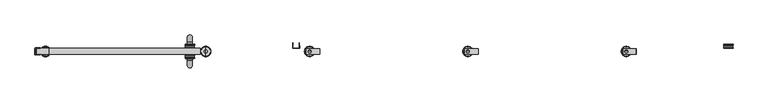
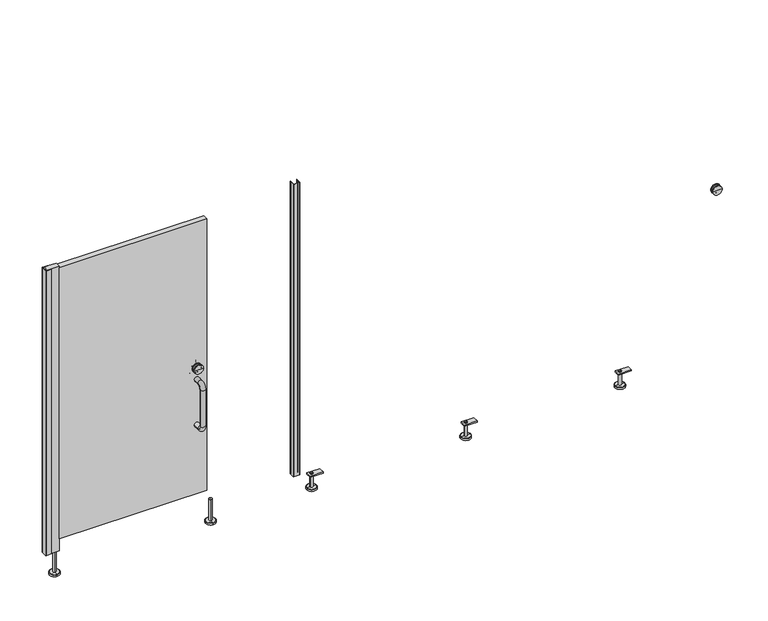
"""IFC4 building model written with IfcOpenShell, lengths in millimetres: proxy geometry, Partition_EuroStyle-Bradley_Corp-ADAStall_3StandardStall-LOFT : Partition_EuroStyle-Bradley_Corp-ADAStall_3StandardStall-LOFT."""

from ifc_helpers import new_model, si_unit, point, frame, frame_2d, origin, place, context, project, spatial, polyline, circle_curve, ellipse_curve, trimmed, segment, composite_curve, outline, extrude, source, transform, mapped, element, save
from ifc_brep_helpers import plane_surface, cylinder_surface, revolved_surface, advanced_brep


def specialty_equipment_f79f568c(model_context):
    return source(origin(), model_context, "Body", "SolidModel", [
        extrude(outline(composite_curve([segment(polyline([(1419.918717, -1491.4999998), (1421.4173026, -1491.4999998)]), True, "CONTINUOUS"), segment(trimmed(circle_curve(frame_2d((1421.4137352, -1492.4990918)), 0.9990984), [point((1421.4173026, -1491.4999998))], [point((1421.8873879, -1493.3787798))], False, "CARTESIAN"), True, "CONTINUOUS"), segment(polyline([(1421.8873879, -1493.3787798), (1421.7662779, -1500.6424298)]), True, "CONTINUOUS"), segment(trimmed(circle_curve(frame_2d((1421.248732, -1501.4999449)), 1.0015917), [point((1421.7662779, -1500.6424298))], [point((1421.7373979, -1502.3742398))], False, "CARTESIAN"), True, "CONTINUOUS"), segment(polyline([(1421.7373979, -1502.3742398), (1421.4433424, -1520.0104531)]), True, "CONTINUOUS"), segment(trimmed(circle_curve(frame_2d((1423.4435342, -1519.9997796)), 2.0002204), [point((1421.4433424, -1520.0104531))], [point((1423.4435342, -1522.0))], True, "CARTESIAN"), True, "CONTINUOUS"), segment(polyline([(1423.4435342, -1522.0), (1457.3278332, -1522.0)]), True, "CONTINUOUS"), segment(trimmed(circle_curve(frame_2d((1457.3768528, -1520.0009061)), 1.9996948), [point((1457.3278332, -1522.0))], [point((1459.3765475, -1520.0))], True, "CARTESIAN"), True, "CONTINUOUS"), segment(polyline([(1459.3765475, -1520.0), (1459.0824961, -1502.3739987)]), True, "CONTINUOUS"), segment(trimmed(circle_curve(frame_2d((1459.5715932, -1501.4999449)), 1.0015917), [point((1459.0824961, -1502.3739987))], [point((1459.0540473, -1500.6424298))], False, "CARTESIAN"), True, "CONTINUOUS"), segment(polyline([(1459.0540473, -1500.6424298), (1458.9329373, -1493.3787798)]), True, "CONTINUOUS"), segment(trimmed(circle_curve(frame_2d((1459.4065899, -1492.4990918)), 0.9990984), [point((1458.9329373, -1493.3787798))], [point((1459.4030225, -1491.4999998))], False, "CARTESIAN"), True, "CONTINUOUS"), segment(polyline([(1459.4030225, -1491.4999998), (1460.9016081, -1491.4999998), (1461.4099473, -1521.97082)]), True, "CONTINUOUS"), segment(trimmed(circle_curve(frame_2d((1459.3807672, -1521.97082)), 2.02918), [point((1461.4099473, -1521.97082))], [point((1459.3807672, -1524.0))], False, "CARTESIAN"), True, "CONTINUOUS"), segment(polyline([(1459.3807672, -1524.0), (1421.4395579, -1524.0)]), True, "CONTINUOUS"), segment(trimmed(circle_curve(frame_2d((1421.4395579, -1521.97082)), 2.02918), [point((1421.4395579, -1524.0))], [point((1419.4103779, -1521.97082))], False, "CARTESIAN"), True, "CONTINUOUS"), segment(polyline([(1419.4103779, -1521.97082), (1419.918717, -1491.4999998)]), True, "CONTINUOUS")], self_intersect=False)), frame((0.0, 0.0, 100.0), z_axis=(0.0, 0.0, 1.0), x_axis=(1.0, 0.0, 0.0)), (0.0, 0.0, 1.0), 1905.0),
        extrude(outline(polyline([(96.0, 1502.8203258), (88.0669888, 1502.8203258), (88.0669888, 1582.6675589), (96.0, 1582.5689968), (96.0, 1502.8203258)])), frame((0.0, -1559.4621549, 0.0), z_axis=(0.0, 1.0, 0.0), x_axis=(0.0, 0.0, 1.0)), (0.0, 0.0, 1.0), 34.925),
        advanced_brep(
        [(1530.4203248, -1541.9996549, 100.0), (1512.4203255, -1541.9996549, 100.0), (1512.4203255, -1541.9996549, 12.0000001), (1530.4203248, -1541.9996549, 12.0000001), (1521.4203251, -1541.9996549, 100.0), (1552.4203241, -1541.9996549, 0.0), (1490.4203262, -1541.9996549, 0.0), (1521.4203251, -1541.9996549, 0.0), (1552.4203241, -1541.9996549, 10.0000001), (1490.4203262, -1541.9996549, 10.0000001), (1550.4179122, -1541.9996549, 12.0000001), (1492.4227381, -1541.9996549, 12.0000001)],
        [
            (0, 1, circle_curve(frame((1521.4203251, -1541.9996549, 100.0), z_axis=(0.0, 0.0, -1.0), x_axis=(-1.0, 0.0, 0.0)), 8.9999997)),
            (1, 2),
            (2, 3, circle_curve(frame((1521.4203251, -1541.9996549, 12.0000001), z_axis=(0.0, 0.0, 1.0), x_axis=(-1.0, 0.0, 0.0)), 8.9999997)),
            (3, 0),
            (1, 0, circle_curve(frame((1521.4203251, -1541.9996549, 100.0), z_axis=(0.0, 0.0, -1.0), x_axis=(-1.0, 0.0, 0.0)), 8.9999997)),
            (3, 2, circle_curve(frame((1521.4203251, -1541.9996549, 12.0000001), z_axis=(0.0, 0.0, 1.0), x_axis=(-1.0, 0.0, 0.0)), 8.9999997)),
            (4, 1),
            (0, 4),
            (5, 6, circle_curve(frame((1521.4203251, -1541.9996549, 0.0), z_axis=(0.0, 0.0, -1.0), x_axis=(-1.0, 0.0, 0.0)), 30.9999989)),
            (6, 7),
            (7, 5),
            (6, 5, circle_curve(frame((1521.4203251, -1541.9996549, 0.0), z_axis=(0.0, 0.0, -1.0), x_axis=(-1.0, 0.0, 0.0)), 30.9999989)),
            (8, 9, circle_curve(frame((1521.4203251, -1541.9996549, 10.0000001), z_axis=(0.0, 0.0, -1.0), x_axis=(-1.0, 0.0, 0.0)), 30.9999989)),
            (9, 6),
            (5, 8),
            (9, 8, circle_curve(frame((1521.4203251, -1541.9996549, 10.0000001), z_axis=(0.0, 0.0, -1.0), x_axis=(-1.0, 0.0, 0.0)), 30.9999989)),
            (10, 11, circle_curve(frame((1521.4203251, -1541.9996549, 12.0000001), z_axis=(0.0, 0.0, -1.0), x_axis=(-1.0, 0.0, 0.0)), 28.997587)),
            (11, 9),
            (8, 10),
            (11, 10, circle_curve(frame((1521.4203251, -1541.9996549, 12.0000001), z_axis=(0.0, 0.0, -1.0), x_axis=(-1.0, 0.0, 0.0)), 28.997587)),
            (2, 11),
            (10, 3),
        ],
        [
            cylinder_surface(frame((1521.4203251, -1541.9996549, 0.0), z_axis=(0.0, 0.0, 1.0), x_axis=(-1.0, 0.0, 0.0)), 8.9999997),
            plane_surface(frame((1521.4203251, -1541.9996549, 100.0), z_axis=(0.0, 0.0, 1.0), x_axis=(-1.0, 0.0, 0.0))),
            plane_surface(frame((1521.4203251, -1541.9996549, 0.0), z_axis=(0.0, 0.0, -1.0), x_axis=(-1.0, 0.0, 0.0))),
            cylinder_surface(frame((1521.4203251, -1541.9996549, 0.0), z_axis=(0.0, 0.0, 1.0), x_axis=(-1.0, 0.0, 0.0)), 30.9999989),
            revolved_surface(polyline([(1490.4203262, -1541.9996549, 10.0000001), (1492.4227381, -1541.9996549, 12.0000001)]), (1521.4203251, -1541.9996549, 0.0), (0.0, 0.0, 1.0)),
            plane_surface(frame((1521.4203251, -1541.9996549, 12.0000001), z_axis=(0.0, 0.0, 1.0), x_axis=(-1.0, 0.0, 0.0))),
        ],
        [
            (0, [[1, 2, 3, 4]]),
            (0, [[5, -4, 6, -2]]),
            (1, [[7, -1, 8]]),
            (1, [[-8, -5, -7]]),
            (2, [[9, 10, 11]]),
            (2, [[12, -11, -10]]),
            (3, [[13, 14, -9, 15]]),
            (3, [[16, -15, -12, -14]]),
            (4, [[17, 18, -13, 19]]),
            (4, [[20, -19, -16, -18]]),
            (5, [[-3, 21, -17, 22]]),
            (5, [[-6, -22, -20, -21]]),
        ],
    ),
        advanced_brep(
        [(787.6001485, -1524.0, 975.0), (817.6001485, -1524.0, 975.0), (787.6001485, -1524.0, 679.0), (817.6001485, -1524.0, 679.0), (817.6001485, -1488.0, 975.0), (787.6001485, -1488.0, 975.0), (817.6001485, -1458.0, 945.0), (817.6001485, -1458.0, 709.0), (787.6001485, -1458.0, 709.0), (787.6001485, -1458.0, 945.0), (817.6001485, -1488.0, 679.0), (787.6001485, -1488.0, 679.0)],
        [
            (0, 1, circle_curve(frame((802.6001485, -1524.0, 975.0), z_axis=(0.0, -1.0, 0.0), x_axis=(1.0, 0.0, 0.0)), 15.0)),
            (1, 0, circle_curve(frame((802.6001485, -1524.0, 975.0), z_axis=(0.0, -1.0, 0.0), x_axis=(1.0, 0.0, 0.0)), 15.0)),
            (2, 3, circle_curve(frame((802.6001485, -1524.0, 679.0), z_axis=(0.0, -1.0, 0.0), x_axis=(1.0, 0.0, 0.0)), 15.0)),
            (3, 2, circle_curve(frame((802.6001485, -1524.0, 679.0), z_axis=(0.0, -1.0, 0.0), x_axis=(1.0, 0.0, 0.0)), 15.0)),
            (1, 4),
            (4, 5, circle_curve(frame((802.6001485, -1488.0, 975.0), z_axis=(0.0, -1.0, 0.0), x_axis=(1.0, 0.0, 0.0)), 15.0)),
            (5, 0),
            (5, 4, circle_curve(frame((802.6001485, -1488.0, 975.0), z_axis=(0.0, -1.0, 0.0), x_axis=(1.0, 0.0, 0.0)), 15.0)),
            (6, 7),
            (7, 8, circle_curve(frame((802.6001485, -1458.0, 709.0), z_axis=(0.0, 0.0, 1.0), x_axis=(1.0, 0.0, 0.0)), 15.0)),
            (8, 9),
            (9, 6, circle_curve(frame((802.6001485, -1458.0, 945.0), z_axis=(0.0, 0.0, -1.0), x_axis=(1.0, 0.0, 0.0)), 15.0)),
            (8, 7, circle_curve(frame((802.6001485, -1458.0, 709.0), z_axis=(0.0, 0.0, 1.0), x_axis=(1.0, 0.0, 0.0)), 15.0)),
            (6, 9, circle_curve(frame((802.6001485, -1458.0, 945.0), z_axis=(0.0, 0.0, -1.0), x_axis=(1.0, 0.0, 0.0)), 15.0)),
            (10, 3),
            (2, 11),
            (11, 10, circle_curve(frame((802.6001485, -1488.0, 679.0), z_axis=(0.0, -1.0, 0.0), x_axis=(1.0, 0.0, 0.0)), 15.0)),
            (10, 11, circle_curve(frame((802.6001485, -1488.0, 679.0), z_axis=(0.0, -1.0, 0.0), x_axis=(1.0, 0.0, 0.0)), 15.0)),
            (9, 5, circle_curve(frame((787.6001485, -1488.0, 945.0), z_axis=(1.0, 0.0, 0.0), x_axis=(0.0, 0.0, 1.0)), 30.0)),
            (4, 6, circle_curve(frame((817.6001485, -1488.0, 945.0), z_axis=(-1.0, 0.0, 0.0), x_axis=(0.0, 0.0, 1.0)), 30.0)),
            (11, 8, circle_curve(frame((787.6001485, -1488.0, 709.0), z_axis=(1.0, 0.0, 0.0), x_axis=(0.0, 1.0, 0.0)), 30.0)),
            (7, 10, circle_curve(frame((817.6001485, -1488.0, 709.0), z_axis=(-1.0, 0.0, 0.0), x_axis=(0.0, 1.0, 0.0)), 30.0)),
        ],
        [
            plane_surface(frame((802.6001485, -1524.0, 975.0), z_axis=(0.0, -1.0, 0.0), x_axis=(1.0, 0.0, 0.0))),
            plane_surface(frame((802.6001485, -1524.0, 679.0), z_axis=(0.0, -1.0, 0.0), x_axis=(1.0, 0.0, 0.0))),
            cylinder_surface(frame((802.6001485, -1524.0, 975.0), z_axis=(0.0, -1.0, 0.0), x_axis=(1.0, 0.0, 0.0)), 15.0),
            cylinder_surface(frame((802.6001485, -1458.0, 945.0), z_axis=(0.0, 0.0, 1.0), x_axis=(1.0, 0.0, 0.0)), 15.0),
            cylinder_surface(frame((802.6001485, -1488.0, 679.0), z_axis=(0.0, 1.0, 0.0), x_axis=(1.0, 0.0, 0.0)), 15.0),
            revolved_surface(trimmed(ellipse_curve(frame((802.6001485, -1488.0, 975.0), z_axis=(0.0, 1.0, 0.0), x_axis=(1.0, 0.0, 0.0)), 15.0, 15.0), [point((787.6001485, -1488.0, 975.0))], [point((817.6001485, -1488.0, 975.0))], True, "CARTESIAN"), (802.6001485, -1488.0, 945.0), (1.0, 0.0, 0.0)),
            revolved_surface(trimmed(ellipse_curve(frame((802.6001485, -1488.0, 975.0), z_axis=(0.0, 1.0, 0.0), x_axis=(1.0, 0.0, 0.0)), 15.0, 15.0), [point((817.6001485, -1488.0, 975.0))], [point((787.6001485, -1488.0, 975.0))], True, "CARTESIAN"), (802.6001485, -1488.0, 945.0), (1.0, 0.0, 0.0)),
            revolved_surface(trimmed(ellipse_curve(frame((802.6001485, -1458.0, 709.0), z_axis=(0.0, 0.0, -1.0), x_axis=(1.0, 0.0, 0.0)), 15.0, 15.0), [point((787.6001485, -1458.0, 709.0))], [point((817.6001485, -1458.0, 709.0))], True, "CARTESIAN"), (802.6001485, -1488.0, 709.0), (1.0, 0.0, 0.0)),
            revolved_surface(trimmed(ellipse_curve(frame((802.6001485, -1458.0, 709.0), z_axis=(0.0, 0.0, -1.0), x_axis=(1.0, 0.0, 0.0)), 15.0, 15.0), [point((817.6001485, -1458.0, 709.0))], [point((787.6001485, -1458.0, 709.0))], True, "CARTESIAN"), (802.6001485, -1488.0, 709.0), (1.0, 0.0, 0.0)),
        ],
        [
            (0, [[1, 2]]),
            (1, [[3, 4]]),
            (2, [[5, 6, 7, -2]]),
            (2, [[-7, 8, -5, -1]]),
            (3, [[9, 10, 11, 12]]),
            (3, [[-11, 13, -9, 14]]),
            (4, [[15, -3, 16, 17]]),
            (4, [[-16, -4, -15, 18]]),
            (5, [[-12, 19, -6, 20]]),
            (6, [[-14, -20, -8, -19]]),
            (7, [[-17, 21, -10, 22]]),
            (8, [[-18, -22, -13, -21]]),
        ],
    ),
        advanced_brep(
        [(787.6001485, -1560.0203251, 975.0), (817.6001485, -1560.0203251, 975.0), (787.6001485, -1560.0203251, 679.0), (817.6001485, -1560.0203251, 679.0), (787.6001485, -1596.0203251, 975.0), (817.6001485, -1596.0203251, 975.0), (817.6001485, -1626.0203251, 945.0), (787.6001485, -1626.0203251, 945.0), (787.6001485, -1626.0203251, 709.0), (817.6001485, -1626.0203251, 709.0), (817.6001485, -1596.0203251, 679.0), (787.6001485, -1596.0203251, 679.0)],
        [
            (0, 1, circle_curve(frame((802.6001485, -1560.0203251, 975.0), z_axis=(0.0, 1.0, 0.0), x_axis=(1.0, 0.0, 0.0)), 15.0)),
            (1, 0, circle_curve(frame((802.6001485, -1560.0203251, 975.0), z_axis=(0.0, 1.0, 0.0), x_axis=(1.0, 0.0, 0.0)), 15.0)),
            (2, 3, circle_curve(frame((802.6001485, -1560.0203251, 679.0), z_axis=(0.0, 1.0, 0.0), x_axis=(1.0, 0.0, 0.0)), 15.0)),
            (3, 2, circle_curve(frame((802.6001485, -1560.0203251, 679.0), z_axis=(0.0, 1.0, 0.0), x_axis=(1.0, 0.0, 0.0)), 15.0)),
            (0, 4),
            (4, 5, circle_curve(frame((802.6001485, -1596.0203251, 975.0), z_axis=(0.0, 1.0, 0.0), x_axis=(1.0, 0.0, 0.0)), 15.0)),
            (5, 1),
            (5, 4, circle_curve(frame((802.6001485, -1596.0203251, 975.0), z_axis=(0.0, 1.0, 0.0), x_axis=(1.0, 0.0, 0.0)), 15.0)),
            (6, 7, circle_curve(frame((802.6001485, -1626.0203251, 945.0), z_axis=(0.0, 0.0, -1.0), x_axis=(1.0, 0.0, 0.0)), 15.0)),
            (7, 8),
            (8, 9, circle_curve(frame((802.6001485, -1626.0203251, 709.0), z_axis=(0.0, 0.0, 1.0), x_axis=(1.0, 0.0, 0.0)), 15.0)),
            (9, 6),
            (7, 6, circle_curve(frame((802.6001485, -1626.0203251, 945.0), z_axis=(0.0, 0.0, -1.0), x_axis=(1.0, 0.0, 0.0)), 15.0)),
            (9, 8, circle_curve(frame((802.6001485, -1626.0203251, 709.0), z_axis=(0.0, 0.0, 1.0), x_axis=(1.0, 0.0, 0.0)), 15.0)),
            (10, 11, circle_curve(frame((802.6001485, -1596.0203251, 679.0), z_axis=(0.0, 1.0, 0.0), x_axis=(1.0, 0.0, 0.0)), 15.0)),
            (11, 2),
            (3, 10),
            (11, 10, circle_curve(frame((802.6001485, -1596.0203251, 679.0), z_axis=(0.0, 1.0, 0.0), x_axis=(1.0, 0.0, 0.0)), 15.0)),
            (6, 5, circle_curve(frame((817.6001485, -1596.0203251, 945.0), z_axis=(-1.0, 0.0, 0.0), x_axis=(0.0, 0.0, 1.0)), 30.0)),
            (4, 7, circle_curve(frame((787.6001485, -1596.0203251, 945.0), z_axis=(1.0, 0.0, 0.0), x_axis=(0.0, 0.0, 1.0)), 30.0)),
            (10, 9, circle_curve(frame((817.6001485, -1596.0203251, 709.0), z_axis=(-1.0, 0.0, 0.0), x_axis=(0.0, -1.0, 0.0)), 30.0)),
            (8, 11, circle_curve(frame((787.6001485, -1596.0203251, 709.0), z_axis=(1.0, 0.0, 0.0), x_axis=(0.0, -1.0, 0.0)), 30.0)),
        ],
        [
            plane_surface(frame((802.6001485, -1560.0203251, 975.0), z_axis=(0.0, 1.0, 0.0), x_axis=(1.0, 0.0, 0.0))),
            plane_surface(frame((802.6001485, -1560.0203251, 679.0), z_axis=(0.0, 1.0, 0.0), x_axis=(1.0, 0.0, 0.0))),
            cylinder_surface(frame((802.6001485, -1560.0203251, 975.0), z_axis=(0.0, 1.0, 0.0), x_axis=(1.0, 0.0, 0.0)), 15.0),
            cylinder_surface(frame((802.6001485, -1626.0203251, 945.0), z_axis=(0.0, 0.0, 1.0), x_axis=(1.0, 0.0, 0.0)), 15.0),
            cylinder_surface(frame((802.6001485, -1596.0203251, 679.0), z_axis=(0.0, -1.0, 0.0), x_axis=(1.0, 0.0, 0.0)), 15.0),
            revolved_surface(trimmed(ellipse_curve(frame((802.6001485, -1596.0203251, 975.0), z_axis=(0.0, 1.0, 0.0), x_axis=(1.0, 0.0, 0.0)), 15.0, 15.0), [point((787.6001485, -1596.0203251, 975.0))], [point((817.6001485, -1596.0203251, 975.0))], True, "CARTESIAN"), (802.6001485, -1596.0203251, 945.0), (1.0, 0.0, 0.0)),
            revolved_surface(trimmed(ellipse_curve(frame((802.6001485, -1596.0203251, 975.0), z_axis=(0.0, 1.0, 0.0), x_axis=(1.0, 0.0, 0.0)), 15.0, 15.0), [point((817.6001485, -1596.0203251, 975.0))], [point((787.6001485, -1596.0203251, 975.0))], True, "CARTESIAN"), (802.6001485, -1596.0203251, 945.0), (1.0, 0.0, 0.0)),
            revolved_surface(trimmed(ellipse_curve(frame((802.6001485, -1626.0203251, 709.0), z_axis=(0.0, 0.0, 1.0), x_axis=(1.0, 0.0, 0.0)), 15.0, 15.0), [point((787.6001485, -1626.0203251, 709.0))], [point((817.6001485, -1626.0203251, 709.0))], True, "CARTESIAN"), (802.6001485, -1596.0203251, 709.0), (1.0, 0.0, 0.0)),
            revolved_surface(trimmed(ellipse_curve(frame((802.6001485, -1626.0203251, 709.0), z_axis=(0.0, 0.0, 1.0), x_axis=(1.0, 0.0, 0.0)), 15.0, 15.0), [point((817.6001485, -1626.0203251, 709.0))], [point((787.6001485, -1626.0203251, 709.0))], True, "CARTESIAN"), (802.6001485, -1596.0203251, 709.0), (1.0, 0.0, 0.0)),
        ],
        [
            (0, [[1, 2]]),
            (1, [[3, 4]]),
            (2, [[-1, 5, 6, 7]]),
            (2, [[-2, -7, 8, -5]]),
            (3, [[9, 10, 11, 12]]),
            (3, [[13, -12, 14, -10]]),
            (4, [[15, 16, -4, 17]]),
            (4, [[18, -17, -3, -16]]),
            (5, [[19, -6, 20, -9]]),
            (6, [[-20, -8, -19, -13]]),
            (7, [[21, -11, 22, -15]]),
            (8, [[-22, -14, -21, -18]]),
        ],
    ),
        advanced_brep(
        [(774.0251485, -1524.0203251, 1050.0), (831.1751485, -1524.0203251, 1050.0), (802.6001485, -1524.0203251, 1050.0), (774.0251485, -1519.2578251, 1050.0), (831.1751485, -1519.2578251, 1050.0), (774.0251485, -1500.2078251, 1050.0), (831.1751485, -1500.2078251, 1050.0), (831.1751485, -1504.9703251, 1050.0), (774.0251485, -1504.9703251, 1050.0), (829.5876485, -1506.5578251, 1050.0), (775.6126485, -1506.5578251, 1050.0), (829.5876485, -1517.6703251, 1050.0), (775.6126485, -1517.6703251, 1050.0), (802.6001485, -1498.6203251, 1050.0)],
        [
            (0, 1, circle_curve(frame((802.6001485, -1524.0203251, 1050.0), z_axis=(0.0, -1.0, 0.0), x_axis=(1.0, 0.0, 0.0)), 28.575)),
            (1, 2),
            (2, 0),
            (1, 0, circle_curve(frame((802.6001485, -1524.0203251, 1050.0), z_axis=(0.0, -1.0, 0.0), x_axis=(1.0, 0.0, 0.0)), 28.575)),
            (3, 4, circle_curve(frame((802.6001485, -1519.2578251, 1050.0), z_axis=(0.0, -1.0, 0.0), x_axis=(1.0, 0.0, 0.0)), 28.575)),
            (4, 1),
            (0, 3),
            (4, 3, circle_curve(frame((802.6001485, -1519.2578251, 1050.0), z_axis=(0.0, -1.0, 0.0), x_axis=(1.0, 0.0, 0.0)), 28.575)),
            (5, 6, circle_curve(frame((802.6001485, -1500.2078251, 1050.0), z_axis=(0.0, -1.0, 0.0), x_axis=(1.0, 0.0, 0.0)), 28.575)),
            (6, 7),
            (7, 8, circle_curve(frame((802.6001485, -1504.9703251, 1050.0), z_axis=(0.0, 1.0, 0.0), x_axis=(1.0, 0.0, 0.0)), 28.575)),
            (8, 5),
            (6, 5, circle_curve(frame((802.6001485, -1500.2078251, 1050.0), z_axis=(0.0, -1.0, 0.0), x_axis=(1.0, 0.0, 0.0)), 28.575)),
            (8, 7, circle_curve(frame((802.6001485, -1504.9703251, 1050.0), z_axis=(0.0, 1.0, 0.0), x_axis=(1.0, 0.0, 0.0)), 28.575)),
            (7, 9, circle_curve(frame((831.1751485, -1506.5578251, 1050.0), z_axis=(0.0, 0.0, 1.0), x_axis=(1.0, 0.0, 0.0)), 1.5875)),
            (9, 10, circle_curve(frame((802.6001485, -1506.5578251, 1050.0), z_axis=(0.0, 1.0, 0.0), x_axis=(1.0, 0.0, 0.0)), 26.9875)),
            (10, 8, circle_curve(frame((774.0251485, -1506.5578251, 1050.0), z_axis=(0.0, 0.0, 1.0), x_axis=(-1.0, 0.0, 0.0)), 1.5875)),
            (10, 9, circle_curve(frame((802.6001485, -1506.5578251, 1050.0), z_axis=(0.0, 1.0, 0.0), x_axis=(1.0, 0.0, 0.0)), 26.9875)),
            (9, 11),
            (11, 12, circle_curve(frame((802.6001485, -1517.6703251, 1050.0), z_axis=(0.0, 1.0, 0.0), x_axis=(1.0, 0.0, 0.0)), 26.9875)),
            (12, 10),
            (12, 11, circle_curve(frame((802.6001485, -1517.6703251, 1050.0), z_axis=(0.0, 1.0, 0.0), x_axis=(1.0, 0.0, 0.0)), 26.9875)),
            (11, 4, circle_curve(frame((831.1751485, -1517.6703251, 1050.0), z_axis=(0.0, 0.0, 1.0), x_axis=(1.0, 0.0, 0.0)), 1.5875)),
            (3, 12, circle_curve(frame((774.0251485, -1517.6703251, 1050.0), z_axis=(0.0, 0.0, 1.0), x_axis=(-1.0, 0.0, 0.0)), 1.5875)),
            (13, 6, circle_curve(frame((806.2942719, -1690.0948544, 1050.0), z_axis=(0.0, 0.0, -1.0), x_axis=(1.0, 0.0, 0.0)), 191.5101613)),
            (5, 13, circle_curve(frame((798.9060251, -1690.0948544, 1050.0), z_axis=(0.0, 0.0, -1.0), x_axis=(-1.0, 0.0, 0.0)), 191.5101613)),
        ],
        [
            plane_surface(frame((802.6001485, -1524.0203251, 1050.0), z_axis=(0.0, -1.0, 0.0), x_axis=(1.0, 0.0, 0.0))),
            cylinder_surface(frame((802.6001485, -1524.0203251, 1050.0), z_axis=(0.0, 1.0, 0.0), x_axis=(1.0, 0.0, 0.0)), 28.575),
            revolved_surface(trimmed(ellipse_curve(frame((831.1751485, -1506.5578251, 1050.0), z_axis=(0.0, 0.0, -1.0), x_axis=(1.0, 0.0, 0.0)), 1.5875, 1.5875), [point((829.5876485, -1506.5578251, 1050.0))], [point((831.1751485, -1504.9703251, 1050.0))], True, "CARTESIAN"), (802.6001485, -1524.0203251, 1050.0), (0.0, 1.0, 0.0)),
            cylinder_surface(frame((802.6001485, -1524.0203251, 1050.0), z_axis=(0.0, 1.0, 0.0), x_axis=(1.0, 0.0, 0.0)), 26.9875),
            revolved_surface(trimmed(ellipse_curve(frame((831.1751485, -1517.6703251, 1050.0), z_axis=(0.0, 0.0, -1.0), x_axis=(1.0, 0.0, 0.0)), 1.5875, 1.5875), [point((831.1751485, -1519.2578251, 1050.0))], [point((829.5876485, -1517.6703251, 1050.0))], True, "CARTESIAN"), (802.6001485, -1524.0203251, 1050.0), (0.0, 1.0, 0.0)),
            revolved_surface(trimmed(ellipse_curve(frame((806.2942719, -1690.0948544, 1050.0), z_axis=(0.0, 0.0, 1.0), x_axis=(1.0, 0.0, 0.0)), 191.5101613, 191.5101613), [point((831.1751485, -1500.2078251, 1050.0))], [point((802.6001485, -1498.6203251, 1050.0))], True, "CARTESIAN"), (802.6001485, -1524.0203251, 1050.0), (0.0, 1.0, 0.0)),
        ],
        [
            (0, [[1, 2, 3]]),
            (0, [[4, -3, -2]]),
            (1, [[5, 6, -1, 7]]),
            (1, [[8, -7, -4, -6]]),
            (1, [[9, 10, 11, 12]]),
            (1, [[13, -12, 14, -10]]),
            (2, [[-11, 15, 16, 17]]),
            (2, [[-14, -17, 18, -15]]),
            (3, [[-16, 19, 20, 21]]),
            (3, [[-18, -21, 22, -19]]),
            (4, [[-20, 23, -5, 24]]),
            (4, [[-22, -24, -8, -23]]),
            (5, [[25, -9, 26]]),
            (5, [[-26, -13, -25]]),
        ],
    ),
        advanced_brep(
        [(802.6001485, -1560.0203251, 1050.0), (831.1751485, -1560.0203251, 1050.0), (774.0251485, -1560.0203251, 1050.0), (831.1751485, -1564.7828251, 1050.0), (774.0251485, -1564.7828251, 1050.0), (774.0251485, -1579.0703251, 1050.0), (831.1751485, -1579.0703251, 1050.0), (831.1751485, -1583.8328251, 1050.0), (774.0251485, -1583.8328251, 1050.0), (775.6126485, -1577.4828251, 1050.0), (829.5876485, -1577.4828251, 1050.0), (775.6126485, -1566.3703251, 1050.0), (829.5876485, -1566.3703251, 1050.0), (802.6001485, -1585.4203251, 1050.0)],
        [
            (0, 1),
            (1, 2, circle_curve(frame((802.6001485, -1560.0203251, 1050.0), z_axis=(0.0, 1.0, 0.0), x_axis=(1.0, 0.0, 0.0)), 28.575)),
            (2, 0),
            (2, 1, circle_curve(frame((802.6001485, -1560.0203251, 1050.0), z_axis=(0.0, 1.0, 0.0), x_axis=(1.0, 0.0, 0.0)), 28.575)),
            (1, 3),
            (3, 4, circle_curve(frame((802.6001485, -1564.7828251, 1050.0), z_axis=(0.0, 1.0, 0.0), x_axis=(1.0, 0.0, 0.0)), 28.575)),
            (4, 2),
            (4, 3, circle_curve(frame((802.6001485, -1564.7828251, 1050.0), z_axis=(0.0, 1.0, 0.0), x_axis=(1.0, 0.0, 0.0)), 28.575)),
            (5, 6, circle_curve(frame((802.6001485, -1579.0703251, 1050.0), z_axis=(0.0, -1.0, 0.0), x_axis=(1.0, 0.0, 0.0)), 28.575)),
            (6, 7),
            (7, 8, circle_curve(frame((802.6001485, -1583.8328251, 1050.0), z_axis=(0.0, 1.0, 0.0), x_axis=(1.0, 0.0, 0.0)), 28.575)),
            (8, 5),
            (6, 5, circle_curve(frame((802.6001485, -1579.0703251, 1050.0), z_axis=(0.0, -1.0, 0.0), x_axis=(1.0, 0.0, 0.0)), 28.575)),
            (8, 7, circle_curve(frame((802.6001485, -1583.8328251, 1050.0), z_axis=(0.0, 1.0, 0.0), x_axis=(1.0, 0.0, 0.0)), 28.575)),
            (9, 10, circle_curve(frame((802.6001485, -1577.4828251, 1050.0), z_axis=(0.0, -1.0, 0.0), x_axis=(1.0, 0.0, 0.0)), 26.9875)),
            (10, 6, circle_curve(frame((831.1751485, -1577.4828251, 1050.0), z_axis=(0.0, 0.0, 1.0), x_axis=(1.0, 0.0, 0.0)), 1.5875)),
            (5, 9, circle_curve(frame((774.0251485, -1577.4828251, 1050.0), z_axis=(0.0, 0.0, 1.0), x_axis=(-1.0, 0.0, 0.0)), 1.5875)),
            (10, 9, circle_curve(frame((802.6001485, -1577.4828251, 1050.0), z_axis=(0.0, -1.0, 0.0), x_axis=(1.0, 0.0, 0.0)), 26.9875)),
            (11, 12, circle_curve(frame((802.6001485, -1566.3703251, 1050.0), z_axis=(0.0, -1.0, 0.0), x_axis=(1.0, 0.0, 0.0)), 26.9875)),
            (12, 10),
            (9, 11),
            (12, 11, circle_curve(frame((802.6001485, -1566.3703251, 1050.0), z_axis=(0.0, -1.0, 0.0), x_axis=(1.0, 0.0, 0.0)), 26.9875)),
            (3, 12, circle_curve(frame((831.1751485, -1566.3703251, 1050.0), z_axis=(0.0, 0.0, 1.0), x_axis=(1.0, 0.0, 0.0)), 1.5875)),
            (11, 4, circle_curve(frame((774.0251485, -1566.3703251, 1050.0), z_axis=(0.0, 0.0, 1.0), x_axis=(-1.0, 0.0, 0.0)), 1.5875)),
            (7, 13, circle_curve(frame((806.2942719, -1393.9457959, 1050.0), z_axis=(0.0, 0.0, -1.0), x_axis=(1.0, 0.0, 0.0)), 191.5101613)),
            (13, 8, circle_curve(frame((798.9060251, -1393.9457959, 1050.0), z_axis=(0.0, 0.0, -1.0), x_axis=(-1.0, 0.0, 0.0)), 191.5101613)),
        ],
        [
            plane_surface(frame((802.6001485, -1560.0203251, 1050.0), z_axis=(0.0, 1.0, 0.0), x_axis=(1.0, 0.0, 0.0))),
            cylinder_surface(frame((802.6001485, -1560.0203251, 1050.0), z_axis=(0.0, 1.0, 0.0), x_axis=(1.0, 0.0, 0.0)), 28.575),
            revolved_surface(trimmed(ellipse_curve(frame((831.1751485, -1577.4828251, 1050.0), z_axis=(0.0, 0.0, -1.0), x_axis=(1.0, 0.0, 0.0)), 1.5875, 1.5875), [point((831.1751485, -1579.0703251, 1050.0))], [point((829.5876485, -1577.4828251, 1050.0))], True, "CARTESIAN"), (802.6001485, -1560.0203251, 1050.0), (0.0, 1.0, 0.0)),
            cylinder_surface(frame((802.6001485, -1560.0203251, 1050.0), z_axis=(0.0, 1.0, 0.0), x_axis=(1.0, 0.0, 0.0)), 26.9875),
            revolved_surface(trimmed(ellipse_curve(frame((831.1751485, -1566.3703251, 1050.0), z_axis=(0.0, 0.0, -1.0), x_axis=(1.0, 0.0, 0.0)), 1.5875, 1.5875), [point((829.5876485, -1566.3703251, 1050.0))], [point((831.1751485, -1564.7828251, 1050.0))], True, "CARTESIAN"), (802.6001485, -1560.0203251, 1050.0), (0.0, 1.0, 0.0)),
            revolved_surface(trimmed(ellipse_curve(frame((806.2942719, -1393.9457959, 1050.0), z_axis=(0.0, 0.0, 1.0), x_axis=(1.0, 0.0, 0.0)), 191.5101613, 191.5101613), [point((802.6001485, -1585.4203251, 1050.0))], [point((831.1751485, -1583.8328251, 1050.0))], True, "CARTESIAN"), (802.6001485, -1560.0203251, 1050.0), (0.0, 1.0, 0.0)),
        ],
        [
            (0, [[1, 2, 3]]),
            (0, [[-3, 4, -1]]),
            (1, [[-2, 5, 6, 7]]),
            (1, [[-4, -7, 8, -5]]),
            (1, [[9, 10, 11, 12]]),
            (1, [[13, -12, 14, -10]]),
            (2, [[15, 16, -9, 17]]),
            (2, [[18, -17, -13, -16]]),
            (3, [[19, 20, -15, 21]]),
            (3, [[22, -21, -18, -20]]),
            (4, [[-6, 23, -19, 24]]),
            (4, [[-8, -24, -22, -23]]),
            (5, [[-11, 25, 26]]),
            (5, [[-14, -26, -25]]),
        ],
    ),
        extrude(outline(polyline([(-43.0030863, -1524.0), (866.1001485, -1524.0), (866.1001485, -1560.0203251), (-43.0030863, -1560.0203251), (-43.0030863, -1524.0)])), frame((0.0, 0.0, 228.6), z_axis=(0.0, 0.0, 1.0), x_axis=(1.0, 0.0, 0.0)), (0.0, 0.0, 1.0), 1767.4),
        advanced_brep(
        [(-63.5018313, -1533.0101629, 150.0000008), (-63.5018313, -1551.0101623, 150.0000008), (-63.5018313, -1551.0101623, 12.0000001), (-63.5018313, -1533.0101629, 12.0000001), (-63.5018313, -1542.0101626, 150.0000008), (-63.5018313, -1511.0101636, 0.0), (-63.5018313, -1573.0101615, 0.0), (-63.5018313, -1542.0101626, 0.0), (-63.5018313, -1511.0101636, 10.0000001), (-63.5018313, -1573.0101615, 10.0000001), (-63.5018313, -1513.0125756, 12.0000001), (-63.5018313, -1571.0077496, 12.0000001)],
        [
            (0, 1, circle_curve(frame((-63.5018313, -1542.0101626, 150.0000008), z_axis=(0.0, 0.0, -1.0), x_axis=(0.0, -1.0, 0.0)), 8.9999997)),
            (1, 2),
            (2, 3, circle_curve(frame((-63.5018313, -1542.0101626, 12.0000001), z_axis=(0.0, 0.0, 1.0), x_axis=(0.0, -1.0, 0.0)), 8.9999997)),
            (3, 0),
            (1, 0, circle_curve(frame((-63.5018313, -1542.0101626, 150.0000008), z_axis=(0.0, 0.0, -1.0), x_axis=(0.0, -1.0, 0.0)), 8.9999997)),
            (3, 2, circle_curve(frame((-63.5018313, -1542.0101626, 12.0000001), z_axis=(0.0, 0.0, 1.0), x_axis=(0.0, -1.0, 0.0)), 8.9999997)),
            (4, 1),
            (0, 4),
            (5, 6, circle_curve(frame((-63.5018313, -1542.0101626, 0.0), z_axis=(0.0, 0.0, -1.0), x_axis=(0.0, -1.0, 0.0)), 30.9999989)),
            (6, 7),
            (7, 5),
            (6, 5, circle_curve(frame((-63.5018313, -1542.0101626, 0.0), z_axis=(0.0, 0.0, -1.0), x_axis=(0.0, -1.0, 0.0)), 30.9999989)),
            (8, 9, circle_curve(frame((-63.5018313, -1542.0101626, 10.0000001), z_axis=(0.0, 0.0, -1.0), x_axis=(0.0, -1.0, 0.0)), 30.9999989)),
            (9, 6),
            (5, 8),
            (9, 8, circle_curve(frame((-63.5018313, -1542.0101626, 10.0000001), z_axis=(0.0, 0.0, -1.0), x_axis=(0.0, -1.0, 0.0)), 30.9999989)),
            (10, 11, circle_curve(frame((-63.5018313, -1542.0101626, 12.0000001), z_axis=(0.0, 0.0, -1.0), x_axis=(0.0, -1.0, 0.0)), 28.997587)),
            (11, 9),
            (8, 10),
            (11, 10, circle_curve(frame((-63.5018313, -1542.0101626, 12.0000001), z_axis=(0.0, 0.0, -1.0), x_axis=(0.0, -1.0, 0.0)), 28.997587)),
            (2, 11),
            (10, 3),
        ],
        [
            cylinder_surface(frame((-63.5018313, -1542.0101626, 0.0), z_axis=(0.0, 0.0, 1.0), x_axis=(0.0, -1.0, 0.0)), 8.9999997),
            plane_surface(frame((-63.5018313, -1542.0101626, 150.0000008), z_axis=(0.0, 0.0, 1.0), x_axis=(0.0, -1.0, 0.0))),
            plane_surface(frame((-63.5018313, -1542.0101626, 0.0), z_axis=(0.0, 0.0, -1.0), x_axis=(0.0, -1.0, 0.0))),
            cylinder_surface(frame((-63.5018313, -1542.0101626, 0.0), z_axis=(0.0, 0.0, 1.0), x_axis=(0.0, -1.0, 0.0)), 30.9999989),
            revolved_surface(polyline([(-63.5018313, -1573.0101615, 10.0000001), (-63.5018313, -1571.0077496, 12.0000001)]), (-63.5018313, -1542.0101626, 0.0), (0.0, 0.0, 1.0)),
            plane_surface(frame((-63.5018313, -1542.0101626, 12.0000001), z_axis=(0.0, 0.0, 1.0), x_axis=(0.0, -1.0, 0.0))),
        ],
        [
            (0, [[1, 2, 3, 4]]),
            (0, [[5, -4, 6, -2]]),
            (1, [[7, -1, 8]]),
            (1, [[-8, -5, -7]]),
            (2, [[9, 10, 11]]),
            (2, [[12, -11, -10]]),
            (3, [[13, 14, -9, 15]]),
            (3, [[16, -15, -12, -14]]),
            (4, [[17, 18, -13, 19]]),
            (4, [[20, -19, -16, -18]]),
            (5, [[-3, 21, -17, 22]]),
            (5, [[-6, -22, -20, -21]]),
        ],
    ),
        extrude(outline(composite_curve([segment(polyline([(-94.4999998, -1521.518717), (-94.4999998, -1523.0173026)]), True, "CONTINUOUS"), segment(trimmed(circle_curve(frame_2d((-95.4990918, -1523.0137352)), 0.9990984), [point((-94.4999998, -1523.0173026))], [point((-96.3787798, -1523.4873879))], False, "CARTESIAN"), True, "CONTINUOUS"), segment(polyline([(-96.3787798, -1523.4873879), (-103.6424298, -1523.3662779)]), True, "CONTINUOUS"), segment(trimmed(circle_curve(frame_2d((-104.4999449, -1522.848732)), 1.0015917), [point((-103.6424298, -1523.3662779))], [point((-105.3742398, -1523.3373979))], False, "CARTESIAN"), True, "CONTINUOUS"), segment(polyline([(-105.3742398, -1523.3373979), (-123.0104531, -1523.0433424)]), True, "CONTINUOUS"), segment(trimmed(circle_curve(frame_2d((-122.9997796, -1525.0435342)), 2.0002204), [point((-123.0104531, -1523.0433424))], [point((-125.0, -1525.0435342))], True, "CARTESIAN"), True, "CONTINUOUS"), segment(polyline([(-125.0, -1525.0435342), (-125.0, -1558.9278332)]), True, "CONTINUOUS"), segment(trimmed(circle_curve(frame_2d((-123.0009061, -1558.9768528)), 1.9996948), [point((-125.0, -1558.9278332))], [point((-123.0, -1560.9765475))], True, "CARTESIAN"), True, "CONTINUOUS"), segment(polyline([(-123.0, -1560.9765475), (-105.3739987, -1560.6824961)]), True, "CONTINUOUS"), segment(trimmed(circle_curve(frame_2d((-104.4999449, -1561.1715932)), 1.0015917), [point((-105.3739987, -1560.6824961))], [point((-103.6424298, -1560.6540473))], False, "CARTESIAN"), True, "CONTINUOUS"), segment(polyline([(-103.6424298, -1560.6540473), (-96.3787798, -1560.5329373)]), True, "CONTINUOUS"), segment(trimmed(circle_curve(frame_2d((-95.4990918, -1561.0065899)), 0.9990984), [point((-96.3787798, -1560.5329373))], [point((-94.4999998, -1561.0030225))], False, "CARTESIAN"), True, "CONTINUOUS"), segment(polyline([(-94.4999998, -1561.0030225), (-94.4999998, -1562.5016081), (-124.97082, -1563.0099473)]), True, "CONTINUOUS"), segment(trimmed(circle_curve(frame_2d((-124.97082, -1560.9807672)), 2.02918), [point((-124.97082, -1563.0099473))], [point((-127.0, -1560.9807672))], False, "CARTESIAN"), True, "CONTINUOUS"), segment(polyline([(-127.0, -1560.9807672), (-127.0, -1523.0395579)]), True, "CONTINUOUS"), segment(trimmed(circle_curve(frame_2d((-124.97082, -1523.0395579)), 2.02918), [point((-127.0, -1523.0395579))], [point((-124.97082, -1521.0103779))], False, "CARTESIAN"), True, "CONTINUOUS"), segment(polyline([(-124.97082, -1521.0103779), (-94.4999998, -1521.518717)]), True, "CONTINUOUS")], self_intersect=False)), frame((0.0, 0.0, 150.0), z_axis=(0.0, 0.0, 1.0), x_axis=(1.0, 0.0, 0.0)), (0.0, 0.0, 1.0), 1855.0),
        extrude(outline(polyline([(-117.000072, -1524.0), (-43.0032348, -1524.0), (-43.0032348, -1560.0203251), (-117.000072, -1560.0203251), (-117.000072, -1524.0)])), frame((0.0, 0.0, 150.0), z_axis=(0.0, 0.0, 1.0), x_axis=(1.0, 0.0, 0.0)), (0.0, 0.0, 1.0), 1855.0),
        advanced_brep(
        [(898.5233172, -1532.9996552, 150.0000008), (898.5233172, -1550.9996545, 150.0000008), (898.5233172, -1550.9996545, 12.0000001), (898.5233172, -1532.9996552, 12.0000001), (898.5233172, -1541.9996549, 150.0000008), (898.5233172, -1510.9996559, 0.0), (898.5233172, -1572.9996538, 0.0), (898.5233172, -1541.9996549, 0.0), (898.5233172, -1510.9996559, 10.0000001), (898.5233172, -1572.9996538, 10.0000001), (898.5233172, -1513.0020678, 12.0000001), (898.5233172, -1570.9972419, 12.0000001)],
        [
            (0, 1, circle_curve(frame((898.5233172, -1541.9996549, 150.0000008), z_axis=(0.0, 0.0, -1.0), x_axis=(0.0, -1.0, 0.0)), 8.9999997)),
            (1, 2),
            (2, 3, circle_curve(frame((898.5233172, -1541.9996549, 12.0000001), z_axis=(0.0, 0.0, 1.0), x_axis=(0.0, -1.0, 0.0)), 8.9999997)),
            (3, 0),
            (1, 0, circle_curve(frame((898.5233172, -1541.9996549, 150.0000008), z_axis=(0.0, 0.0, -1.0), x_axis=(0.0, -1.0, 0.0)), 8.9999997)),
            (3, 2, circle_curve(frame((898.5233172, -1541.9996549, 12.0000001), z_axis=(0.0, 0.0, 1.0), x_axis=(0.0, -1.0, 0.0)), 8.9999997)),
            (4, 1),
            (0, 4),
            (5, 6, circle_curve(frame((898.5233172, -1541.9996549, 0.0), z_axis=(0.0, 0.0, -1.0), x_axis=(0.0, -1.0, 0.0)), 30.9999989)),
            (6, 7),
            (7, 5),
            (6, 5, circle_curve(frame((898.5233172, -1541.9996549, 0.0), z_axis=(0.0, 0.0, -1.0), x_axis=(0.0, -1.0, 0.0)), 30.9999989)),
            (8, 9, circle_curve(frame((898.5233172, -1541.9996549, 10.0000001), z_axis=(0.0, 0.0, -1.0), x_axis=(0.0, -1.0, 0.0)), 30.9999989)),
            (9, 6),
            (5, 8),
            (9, 8, circle_curve(frame((898.5233172, -1541.9996549, 10.0000001), z_axis=(0.0, 0.0, -1.0), x_axis=(0.0, -1.0, 0.0)), 30.9999989)),
            (10, 11, circle_curve(frame((898.5233172, -1541.9996549, 12.0000001), z_axis=(0.0, 0.0, -1.0), x_axis=(0.0, -1.0, 0.0)), 28.997587)),
            (11, 9),
            (8, 10),
            (11, 10, circle_curve(frame((898.5233172, -1541.9996549, 12.0000001), z_axis=(0.0, 0.0, -1.0), x_axis=(0.0, -1.0, 0.0)), 28.997587)),
            (2, 11),
            (10, 3),
        ],
        [
            cylinder_surface(frame((898.5233172, -1541.9996549, 0.0), z_axis=(0.0, 0.0, 1.0), x_axis=(0.0, -1.0, 0.0)), 8.9999997),
            plane_surface(frame((898.5233172, -1541.9996549, 150.0000008), z_axis=(0.0, 0.0, 1.0), x_axis=(0.0, -1.0, 0.0))),
            plane_surface(frame((898.5233172, -1541.9996549, 0.0), z_axis=(0.0, 0.0, -1.0), x_axis=(0.0, -1.0, 0.0))),
            cylinder_surface(frame((898.5233172, -1541.9996549, 0.0), z_axis=(0.0, 0.0, 1.0), x_axis=(0.0, -1.0, 0.0)), 30.9999989),
            revolved_surface(polyline([(898.5233172, -1572.9996538, 10.0000001), (898.5233172, -1570.9972419, 12.0000001)]), (898.5233172, -1541.9996549, 0.0), (0.0, 0.0, 1.0)),
            plane_surface(frame((898.5233172, -1541.9996549, 12.0000001), z_axis=(0.0, 0.0, 1.0), x_axis=(0.0, -1.0, 0.0))),
        ],
        [
            (0, [[1, 2, 3, 4]]),
            (0, [[5, -4, 6, -2]]),
            (1, [[7, -1, 8]]),
            (1, [[-8, -5, -7]]),
            (2, [[9, 10, 11]]),
            (2, [[12, -11, -10]]),
            (3, [[13, 14, -9, 15]]),
            (3, [[16, -15, -12, -14]]),
            (4, [[17, 18, -13, 19]]),
            (4, [[20, -19, -16, -18]]),
            (5, [[-3, 21, -17, 22]]),
            (5, [[-6, -22, -20, -21]]),
        ],
    ),
        extrude(outline(polyline([(96.0, 3403.6203258), (88.0669888, 3403.6203258), (88.0669888, 3483.4675589), (96.0, 3483.3689968), (96.0, 3403.6203258)])), frame((0.0, -1559.4621549, 0.0), z_axis=(0.0, 1.0, 0.0), x_axis=(0.0, 0.0, 1.0)), (0.0, 0.0, 1.0), 34.925),
        advanced_brep(
        [(3431.2203248, -1541.9996549, 100.0), (3413.2203255, -1541.9996549, 100.0), (3413.2203255, -1541.9996549, 12.0000001), (3431.2203248, -1541.9996549, 12.0000001), (3422.2203251, -1541.9996549, 100.0), (3453.2203241, -1541.9996549, 0.0), (3391.2203262, -1541.9996549, 0.0), (3422.2203251, -1541.9996549, 0.0), (3453.2203241, -1541.9996549, 10.0000001), (3391.2203262, -1541.9996549, 10.0000001), (3451.2179122, -1541.9996549, 12.0000001), (3393.2227381, -1541.9996549, 12.0000001)],
        [
            (0, 1, circle_curve(frame((3422.2203251, -1541.9996549, 100.0), z_axis=(0.0, 0.0, -1.0), x_axis=(-1.0, 0.0, 0.0)), 8.9999997)),
            (1, 2),
            (2, 3, circle_curve(frame((3422.2203251, -1541.9996549, 12.0000001), z_axis=(0.0, 0.0, 1.0), x_axis=(-1.0, 0.0, 0.0)), 8.9999997)),
            (3, 0),
            (1, 0, circle_curve(frame((3422.2203251, -1541.9996549, 100.0), z_axis=(0.0, 0.0, -1.0), x_axis=(-1.0, 0.0, 0.0)), 8.9999997)),
            (3, 2, circle_curve(frame((3422.2203251, -1541.9996549, 12.0000001), z_axis=(0.0, 0.0, 1.0), x_axis=(-1.0, 0.0, 0.0)), 8.9999997)),
            (4, 1),
            (0, 4),
            (5, 6, circle_curve(frame((3422.2203251, -1541.9996549, 0.0), z_axis=(0.0, 0.0, -1.0), x_axis=(-1.0, 0.0, 0.0)), 30.9999989)),
            (6, 7),
            (7, 5),
            (6, 5, circle_curve(frame((3422.2203251, -1541.9996549, 0.0), z_axis=(0.0, 0.0, -1.0), x_axis=(-1.0, 0.0, 0.0)), 30.9999989)),
            (8, 9, circle_curve(frame((3422.2203251, -1541.9996549, 10.0000001), z_axis=(0.0, 0.0, -1.0), x_axis=(-1.0, 0.0, 0.0)), 30.9999989)),
            (9, 6),
            (5, 8),
            (9, 8, circle_curve(frame((3422.2203251, -1541.9996549, 10.0000001), z_axis=(0.0, 0.0, -1.0), x_axis=(-1.0, 0.0, 0.0)), 30.9999989)),
            (10, 11, circle_curve(frame((3422.2203251, -1541.9996549, 12.0000001), z_axis=(0.0, 0.0, -1.0), x_axis=(-1.0, 0.0, 0.0)), 28.997587)),
            (11, 9),
            (8, 10),
            (11, 10, circle_curve(frame((3422.2203251, -1541.9996549, 12.0000001), z_axis=(0.0, 0.0, -1.0), x_axis=(-1.0, 0.0, 0.0)), 28.997587)),
            (2, 11),
            (10, 3),
        ],
        [
            cylinder_surface(frame((3422.2203251, -1541.9996549, 0.0), z_axis=(0.0, 0.0, 1.0), x_axis=(-1.0, 0.0, 0.0)), 8.9999997),
            plane_surface(frame((3422.2203251, -1541.9996549, 100.0), z_axis=(0.0, 0.0, 1.0), x_axis=(-1.0, 0.0, 0.0))),
            plane_surface(frame((3422.2203251, -1541.9996549, 0.0), z_axis=(0.0, 0.0, -1.0), x_axis=(-1.0, 0.0, 0.0))),
            cylinder_surface(frame((3422.2203251, -1541.9996549, 0.0), z_axis=(0.0, 0.0, 1.0), x_axis=(-1.0, 0.0, 0.0)), 30.9999989),
            revolved_surface(polyline([(3391.2203262, -1541.9996549, 10.0000001), (3393.2227381, -1541.9996549, 12.0000001)]), (3422.2203251, -1541.9996549, 0.0), (0.0, 0.0, 1.0)),
            plane_surface(frame((3422.2203251, -1541.9996549, 12.0000001), z_axis=(0.0, 0.0, 1.0), x_axis=(-1.0, 0.0, 0.0))),
        ],
        [
            (0, [[1, 2, 3, 4]]),
            (0, [[5, -4, 6, -2]]),
            (1, [[7, -1, 8]]),
            (1, [[-8, -5, -7]]),
            (2, [[9, 10, 11]]),
            (2, [[12, -11, -10]]),
            (3, [[13, 14, -9, 15]]),
            (3, [[16, -15, -12, -14]]),
            (4, [[17, 18, -13, 19]]),
            (4, [[20, -19, -16, -18]]),
            (5, [[-3, 21, -17, 22]]),
            (5, [[-6, -22, -20, -21]]),
        ],
    ),
        extrude(outline(polyline([(96.0, 2453.2203258), (88.0669888, 2453.2203258), (88.0669888, 2533.0675589), (96.0, 2532.9689968), (96.0, 2453.2203258)])), frame((0.0, -1559.4621549, 0.0), z_axis=(0.0, 1.0, 0.0), x_axis=(0.0, 0.0, 1.0)), (0.0, 0.0, 1.0), 34.925),
        advanced_brep(
        [(2480.8203248, -1541.9996549, 100.0), (2462.8203255, -1541.9996549, 100.0), (2462.8203255, -1541.9996549, 12.0000001), (2480.8203248, -1541.9996549, 12.0000001), (2471.8203251, -1541.9996549, 100.0), (2502.8203241, -1541.9996549, 0.0), (2440.8203262, -1541.9996549, 0.0), (2471.8203251, -1541.9996549, 0.0), (2502.8203241, -1541.9996549, 10.0000001), (2440.8203262, -1541.9996549, 10.0000001), (2500.8179122, -1541.9996549, 12.0000001), (2442.8227381, -1541.9996549, 12.0000001)],
        [
            (0, 1, circle_curve(frame((2471.8203251, -1541.9996549, 100.0), z_axis=(0.0, 0.0, -1.0), x_axis=(-1.0, 0.0, 0.0)), 8.9999997)),
            (1, 2),
            (2, 3, circle_curve(frame((2471.8203251, -1541.9996549, 12.0000001), z_axis=(0.0, 0.0, 1.0), x_axis=(-1.0, 0.0, 0.0)), 8.9999997)),
            (3, 0),
            (1, 0, circle_curve(frame((2471.8203251, -1541.9996549, 100.0), z_axis=(0.0, 0.0, -1.0), x_axis=(-1.0, 0.0, 0.0)), 8.9999997)),
            (3, 2, circle_curve(frame((2471.8203251, -1541.9996549, 12.0000001), z_axis=(0.0, 0.0, 1.0), x_axis=(-1.0, 0.0, 0.0)), 8.9999997)),
            (4, 1),
            (0, 4),
            (5, 6, circle_curve(frame((2471.8203251, -1541.9996549, 0.0), z_axis=(0.0, 0.0, -1.0), x_axis=(-1.0, 0.0, 0.0)), 30.9999989)),
            (6, 7),
            (7, 5),
            (6, 5, circle_curve(frame((2471.8203251, -1541.9996549, 0.0), z_axis=(0.0, 0.0, -1.0), x_axis=(-1.0, 0.0, 0.0)), 30.9999989)),
            (8, 9, circle_curve(frame((2471.8203251, -1541.9996549, 10.0000001), z_axis=(0.0, 0.0, -1.0), x_axis=(-1.0, 0.0, 0.0)), 30.9999989)),
            (9, 6),
            (5, 8),
            (9, 8, circle_curve(frame((2471.8203251, -1541.9996549, 10.0000001), z_axis=(0.0, 0.0, -1.0), x_axis=(-1.0, 0.0, 0.0)), 30.9999989)),
            (10, 11, circle_curve(frame((2471.8203251, -1541.9996549, 12.0000001), z_axis=(0.0, 0.0, -1.0), x_axis=(-1.0, 0.0, 0.0)), 28.997587)),
            (11, 9),
            (8, 10),
            (11, 10, circle_curve(frame((2471.8203251, -1541.9996549, 12.0000001), z_axis=(0.0, 0.0, -1.0), x_axis=(-1.0, 0.0, 0.0)), 28.997587)),
            (2, 11),
            (10, 3),
        ],
        [
            cylinder_surface(frame((2471.8203251, -1541.9996549, 0.0), z_axis=(0.0, 0.0, 1.0), x_axis=(-1.0, 0.0, 0.0)), 8.9999997),
            plane_surface(frame((2471.8203251, -1541.9996549, 100.0), z_axis=(0.0, 0.0, 1.0), x_axis=(-1.0, 0.0, 0.0))),
            plane_surface(frame((2471.8203251, -1541.9996549, 0.0), z_axis=(0.0, 0.0, -1.0), x_axis=(-1.0, 0.0, 0.0))),
            cylinder_surface(frame((2471.8203251, -1541.9996549, 0.0), z_axis=(0.0, 0.0, 1.0), x_axis=(-1.0, 0.0, 0.0)), 30.9999989),
            revolved_surface(polyline([(2440.8203262, -1541.9996549, 10.0000001), (2442.8227381, -1541.9996549, 12.0000001)]), (2471.8203251, -1541.9996549, 0.0), (0.0, 0.0, 1.0)),
            plane_surface(frame((2471.8203251, -1541.9996549, 12.0000001), z_axis=(0.0, 0.0, 1.0), x_axis=(-1.0, 0.0, 0.0))),
        ],
        [
            (0, [[1, 2, 3, 4]]),
            (0, [[5, -4, 6, -2]]),
            (1, [[7, -1, 8]]),
            (1, [[-8, -5, -7]]),
            (2, [[9, 10, 11]]),
            (2, [[12, -11, -10]]),
            (3, [[13, 14, -9, 15]]),
            (3, [[16, -15, -12, -14]]),
            (4, [[17, 18, -13, 19]]),
            (4, [[20, -19, -16, -18]]),
            (5, [[-3, 21, -17, 22]]),
            (5, [[-6, -22, -20, -21]]),
        ],
    ),
        advanced_brep(
        [(4006.2451766, -1524.0098174, 1049.9875), (4063.3951766, -1524.0098174, 1049.9875), (4034.8201766, -1524.0098174, 1049.9875), (4006.2451766, -1519.2473174, 1049.9875), (4063.3951766, -1519.2473174, 1049.9875), (4006.2451766, -1500.1973174, 1049.9875), (4063.3951766, -1500.1973174, 1049.9875), (4063.3951766, -1504.9598174, 1049.9875), (4006.2451766, -1504.9598174, 1049.9875), (4061.8076766, -1506.5473174, 1049.9875), (4007.8326766, -1506.5473174, 1049.9875), (4061.8076766, -1517.6598174, 1049.9875), (4007.8326766, -1517.6598174, 1049.9875), (4034.8201766, -1498.6098174, 1049.9875)],
        [
            (0, 1, circle_curve(frame((4034.8201766, -1524.0098174, 1049.9875), z_axis=(0.0, -1.0, 0.0), x_axis=(1.0, 0.0, 0.0)), 28.575)),
            (1, 2),
            (2, 0),
            (1, 0, circle_curve(frame((4034.8201766, -1524.0098174, 1049.9875), z_axis=(0.0, -1.0, 0.0), x_axis=(1.0, 0.0, 0.0)), 28.575)),
            (3, 4, circle_curve(frame((4034.8201766, -1519.2473174, 1049.9875), z_axis=(0.0, -1.0, 0.0), x_axis=(1.0, 0.0, 0.0)), 28.575)),
            (4, 1),
            (0, 3),
            (4, 3, circle_curve(frame((4034.8201766, -1519.2473174, 1049.9875), z_axis=(0.0, -1.0, 0.0), x_axis=(1.0, 0.0, 0.0)), 28.575)),
            (5, 6, circle_curve(frame((4034.8201766, -1500.1973174, 1049.9875), z_axis=(0.0, -1.0, 0.0), x_axis=(1.0, 0.0, 0.0)), 28.575)),
            (6, 7),
            (7, 8, circle_curve(frame((4034.8201766, -1504.9598174, 1049.9875), z_axis=(0.0, 1.0, 0.0), x_axis=(1.0, 0.0, 0.0)), 28.575)),
            (8, 5),
            (6, 5, circle_curve(frame((4034.8201766, -1500.1973174, 1049.9875), z_axis=(0.0, -1.0, 0.0), x_axis=(1.0, 0.0, 0.0)), 28.575)),
            (8, 7, circle_curve(frame((4034.8201766, -1504.9598174, 1049.9875), z_axis=(0.0, 1.0, 0.0), x_axis=(1.0, 0.0, 0.0)), 28.575)),
            (7, 9, circle_curve(frame((4063.3951766, -1506.5473174, 1049.9875), z_axis=(0.0, 0.0, 1.0), x_axis=(1.0, 0.0, 0.0)), 1.5875)),
            (9, 10, circle_curve(frame((4034.8201766, -1506.5473174, 1049.9875), z_axis=(0.0, 1.0, 0.0), x_axis=(1.0, 0.0, 0.0)), 26.9875)),
            (10, 8, circle_curve(frame((4006.2451766, -1506.5473174, 1049.9875), z_axis=(0.0, 0.0, 1.0), x_axis=(-1.0, 0.0, 0.0)), 1.5875)),
            (10, 9, circle_curve(frame((4034.8201766, -1506.5473174, 1049.9875), z_axis=(0.0, 1.0, 0.0), x_axis=(1.0, 0.0, 0.0)), 26.9875)),
            (9, 11),
            (11, 12, circle_curve(frame((4034.8201766, -1517.6598174, 1049.9875), z_axis=(0.0, 1.0, 0.0), x_axis=(1.0, 0.0, 0.0)), 26.9875)),
            (12, 10),
            (12, 11, circle_curve(frame((4034.8201766, -1517.6598174, 1049.9875), z_axis=(0.0, 1.0, 0.0), x_axis=(1.0, 0.0, 0.0)), 26.9875)),
            (11, 4, circle_curve(frame((4063.3951766, -1517.6598174, 1049.9875), z_axis=(0.0, 0.0, 1.0), x_axis=(1.0, 0.0, 0.0)), 1.5875)),
            (3, 12, circle_curve(frame((4006.2451766, -1517.6598174, 1049.9875), z_axis=(0.0, 0.0, 1.0), x_axis=(-1.0, 0.0, 0.0)), 1.5875)),
            (13, 6, circle_curve(frame((4038.5143, -1690.0843466, 1049.9875), z_axis=(0.0, 0.0, -1.0), x_axis=(1.0, 0.0, 0.0)), 191.5101613)),
            (5, 13, circle_curve(frame((4031.1260533, -1690.0843466, 1049.9875), z_axis=(0.0, 0.0, -1.0), x_axis=(-1.0, 0.0, 0.0)), 191.5101613)),
        ],
        [
            plane_surface(frame((4034.8201766, -1524.0098174, 1049.9875), z_axis=(0.0, -1.0, 0.0), x_axis=(1.0, 0.0, 0.0))),
            cylinder_surface(frame((4034.8201766, -1524.0098174, 1049.9875), z_axis=(0.0, 1.0, 0.0), x_axis=(1.0, 0.0, 0.0)), 28.575),
            revolved_surface(trimmed(ellipse_curve(frame((4063.3951766, -1506.5473174, 1049.9875), z_axis=(0.0, 0.0, -1.0), x_axis=(1.0, 0.0, 0.0)), 1.5875, 1.5875), [point((4061.8076766, -1506.5473174, 1049.9875))], [point((4063.3951766, -1504.9598174, 1049.9875))], True, "CARTESIAN"), (4034.8201766, -1524.0098174, 1049.9875), (0.0, 1.0, 0.0)),
            cylinder_surface(frame((4034.8201766, -1524.0098174, 1049.9875), z_axis=(0.0, 1.0, 0.0), x_axis=(1.0, 0.0, 0.0)), 26.9875),
            revolved_surface(trimmed(ellipse_curve(frame((4063.3951766, -1517.6598174, 1049.9875), z_axis=(0.0, 0.0, -1.0), x_axis=(1.0, 0.0, 0.0)), 1.5875, 1.5875), [point((4063.3951766, -1519.2473174, 1049.9875))], [point((4061.8076766, -1517.6598174, 1049.9875))], True, "CARTESIAN"), (4034.8201766, -1524.0098174, 1049.9875), (0.0, 1.0, 0.0)),
            revolved_surface(trimmed(ellipse_curve(frame((4038.5143, -1690.0843466, 1049.9875), z_axis=(0.0, 0.0, 1.0), x_axis=(1.0, 0.0, 0.0)), 191.5101613, 191.5101613), [point((4063.3951766, -1500.1973174, 1049.9875))], [point((4034.8201766, -1498.6098174, 1049.9875))], True, "CARTESIAN"), (4034.8201766, -1524.0098174, 1049.9875), (0.0, 1.0, 0.0)),
        ],
        [
            (0, [[1, 2, 3]]),
            (0, [[4, -3, -2]]),
            (1, [[5, 6, -1, 7]]),
            (1, [[8, -7, -4, -6]]),
            (1, [[9, 10, 11, 12]]),
            (1, [[13, -12, 14, -10]]),
            (2, [[-11, 15, 16, 17]]),
            (2, [[-14, -17, 18, -15]]),
            (3, [[-16, 19, 20, 21]]),
            (3, [[-18, -21, 22, -19]]),
            (4, [[-20, 23, -5, 24]]),
            (4, [[-22, -24, -8, -23]]),
            (5, [[25, -9, 26]]),
            (5, [[-26, -13, -25]]),
        ],
    ),
    ])


if __name__ == "__main__":
    model = new_model("IFC4")
    model_context = context("Model", 3, world=origin())
    ifc_project = project(units=[si_unit("LENGTHUNIT", "METRE", prefix="MILLI")], contexts=[model_context])
    site = spatial("IfcSite", under=ifc_project)
    building = spatial("IfcBuilding", under=site)
    placement = place(None, origin())
    specialty_equipment_shape = specialty_equipment_f79f568c(model_context)
    element("IfcBuildingElementProxy", 1, Name="Partition_EuroStyle-Bradley_Corp-ADAStall_3StandardStall-LOFT : Partition_EuroStyle-Bradley_Corp-ADAStall_3StandardStall-LOFT", ObjectType="Partition_EuroStyle-Bradley_Corp-ADAStall_3StandardStall-LOFT : Partition_EuroStyle-Bradley_Corp-ADAStall_3StandardStall-LOFT", at=placement, inside=building, context=model_context, shape_type="MappedRepresentation", body=[
        mapped(specialty_equipment_shape, transform((0.0, 0.0, 0.0), x_axis=(1.0, 0.0, 0.0), y_axis=(0.0, 1.0, 0.0), z_axis=(0.0, 0.0, 1.0))),
    ])
    save(model, "model.ifc")
